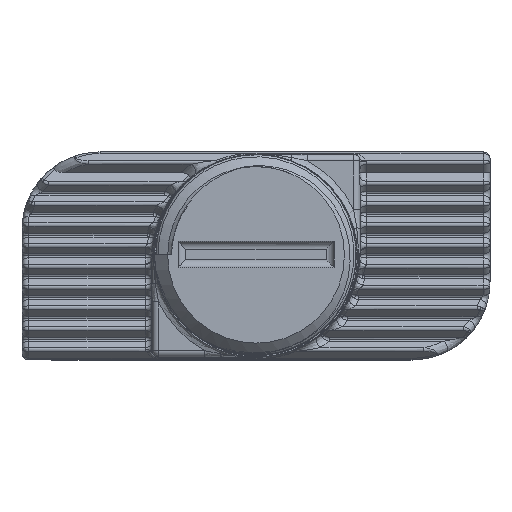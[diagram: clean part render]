
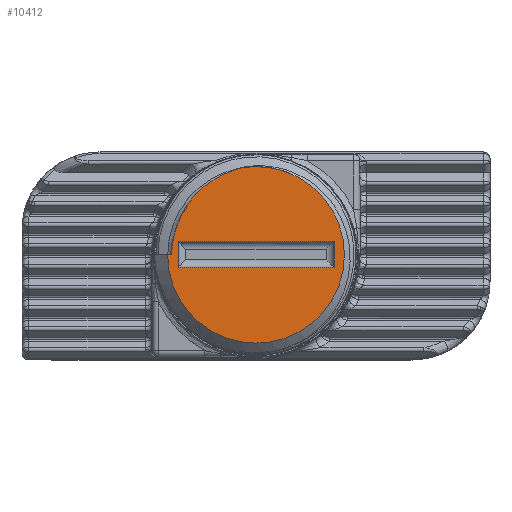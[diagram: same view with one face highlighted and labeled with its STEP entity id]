
A CAD part, top view. The second image highlights one B-rep face of the part: STEP entity #10412.
In plain terms, the highlighted planar face has unit normal (0, 0, 1).
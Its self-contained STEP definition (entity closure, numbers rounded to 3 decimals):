
#127 = CARTESIAN_POINT ( 'NONE',  ( -0.626, 3.984, 29.5 ) ) ;
#441 = PLANE ( 'NONE',  #8721 ) ;
#456 = CARTESIAN_POINT ( 'NONE',  ( -0.648, 3.978, 29.5 ) ) ;
#517 = CARTESIAN_POINT ( 'NONE',  ( -2.908, 2.111, 29.5 ) ) ;
#594 = CARTESIAN_POINT ( 'NONE',  ( -3., 0.164, 29.5 ) ) ;
#793 = CARTESIAN_POINT ( 'NONE',  ( 3., 1.164, 29.5 ) ) ;
#1586 = CARTESIAN_POINT ( 'NONE',  ( -3., 1.164, 29.5 ) ) ;
#1834 = FACE_BOUND ( 'NONE', #5903, .T. ) ;
#1906 = CARTESIAN_POINT ( 'NONE',  ( -3.11, 1.58, 29.5 ) ) ;
#2470 = EDGE_CURVE ( 'NONE', #11723, #4095, #16023, .T. ) ;
#2562 = CARTESIAN_POINT ( 'NONE',  ( -0.581, 3.997, 29.5 ) ) ;
#2754 = ORIENTED_EDGE ( 'NONE', *, *, #3517, .T. ) ;
#3030 = CARTESIAN_POINT ( 'NONE',  ( 3., 1.164, 29.5 ) ) ;
#3033 = VERTEX_POINT ( 'NONE', #16018 ) ;
#3153 = ORIENTED_EDGE ( 'NONE', *, *, #17614, .T. ) ;
#3173 = CARTESIAN_POINT ( 'NONE',  ( -3., 1.164, 29.5 ) ) ;
#3262 = CARTESIAN_POINT ( 'NONE',  ( -3.221, 1.028, 29.5 ) ) ;
#3424 = CARTESIAN_POINT ( 'NONE',  ( 3., 0.164, 29.5 ) ) ;
#3517 = EDGE_CURVE ( 'NONE', #9311, #5057, #8364, .T. ) ;
#3641 = CARTESIAN_POINT ( 'NONE',  ( 0., 0.647, 29.5 ) ) ;
#4095 = VERTEX_POINT ( 'NONE', #793 ) ;
#4284 = DIRECTION ( 'NONE',  ( 0., 0., 1. ) ) ;
#4551 = CARTESIAN_POINT ( 'NONE',  ( -0.648, 3.978, 29.5 ) ) ;
#4591 = CARTESIAN_POINT ( 'NONE',  ( 0., 0.647, 29.5 ) ) ;
#4606 = CARTESIAN_POINT ( 'NONE',  ( -1.362, 3.709, 29.5 ) ) ;
#4674 = CARTESIAN_POINT ( 'NONE',  ( -3.238, 0.647, 29.5 ) ) ;
#5057 = VERTEX_POINT ( 'NONE', #4551 ) ;
#5210 = AXIS2_PLACEMENT_3D ( 'NONE', #12694, #4284, #14102 ) ;
#5630 = EDGE_CURVE ( 'NONE', #15467, #9311, #10407, .T. ) ;
#5662 = CARTESIAN_POINT ( 'NONE',  ( -0.604, 3.991, 29.5 ) ) ;
#5805 = LINE ( 'NONE', #3173, #6258 ) ;
#5903 = EDGE_LOOP ( 'NONE', ( #9971, #6127, #10533, #13123 ) ) ;
#6029 = DIRECTION ( 'NONE',  ( 1., 0., 0. ) ) ;
#6047 = CARTESIAN_POINT ( 'NONE',  ( -1.98, 3.285, 29.5 ) ) ;
#6127 = ORIENTED_EDGE ( 'NONE', *, *, #10303, .F. ) ;
#6258 = VECTOR ( 'NONE', #17020, 1000. ) ;
#6326 = VECTOR ( 'NONE', #6328, 1000. ) ;
#6328 = DIRECTION ( 'NONE',  ( -1., 0., 0. ) ) ;
#6431 = VECTOR ( 'NONE', #11338, 1000. ) ;
#6569 = EDGE_CURVE ( 'NONE', #11619, #3033, #5805, .T. ) ;
#7368 = CARTESIAN_POINT ( 'NONE',  ( -3.238, 0.647, 29.5 ) ) ;
#7456 = CARTESIAN_POINT ( 'NONE',  ( -2.39, 2.891, 29.5 ) ) ;
#8364 = B_SPLINE_CURVE_WITH_KNOTS ( 'NONE', 3,
 ( #14039, #5662, #127, #9866 ),
 .UNSPECIFIED., .F., .F.,
 ( 4, 4 ),
 ( 0., 0.001 ),
 .UNSPECIFIED. ) ;
#8721 = AXIS2_PLACEMENT_3D ( 'NONE', #4591, #14401, #6029 ) ;
#8843 = CARTESIAN_POINT ( 'NONE',  ( -2.726, 2.441, 29.5 ) ) ;
#9015 = EDGE_CURVE ( 'NONE', #3033, #11723, #9055, .T. ) ;
#9055 = LINE ( 'NONE', #594, #16087 ) ;
#9240 = FACE_OUTER_BOUND ( 'NONE', #16478, .T. ) ;
#9311 = VERTEX_POINT ( 'NONE', #2562 ) ;
#9866 = CARTESIAN_POINT ( 'NONE',  ( -0.648, 3.978, 29.5 ) ) ;
#9971 = ORIENTED_EDGE ( 'NONE', *, *, #6569, .F. ) ;
#10182 = CARTESIAN_POINT ( 'NONE',  ( -1.012, 3.867, 29.5 ) ) ;
#10244 = CARTESIAN_POINT ( 'NONE',  ( -2.986, 1.936, 29.5 ) ) ;
#10260 = VECTOR ( 'NONE', #11420, 1000. ) ;
#10303 = EDGE_CURVE ( 'NONE', #4095, #11619, #13858, .T. ) ;
#10306 = ORIENTED_EDGE ( 'NONE', *, *, #11191, .T. ) ;
#10407 = CIRCLE ( 'NONE', #5210, 3.4 ) ;
#10412 = ADVANCED_FACE ( 'NONE', ( #1834, #9240 ), #441, .T. ) ;
#10533 = ORIENTED_EDGE ( 'NONE', *, *, #2470, .F. ) ;
#11025 = CARTESIAN_POINT ( 'NONE',  ( -3.4, 0.647, 29.5 ) ) ;
#11191 = EDGE_CURVE ( 'NONE', #16434, #15467, #13307, .T. ) ;
#11338 = DIRECTION ( 'NONE',  ( -1., 0., 0. ) ) ;
#11420 = DIRECTION ( 'NONE',  ( 0., 1., 0. ) ) ;
#11619 = VERTEX_POINT ( 'NONE', #14794 ) ;
#11657 = CARTESIAN_POINT ( 'NONE',  ( -3.157, 1.399, 29.5 ) ) ;
#11723 = VERTEX_POINT ( 'NONE', #3424 ) ;
#12694 = CARTESIAN_POINT ( 'NONE',  ( 0., 0.647, 29.5 ) ) ;
#13083 = CARTESIAN_POINT ( 'NONE',  ( -3.238, 0.837, 29.5 ) ) ;
#13123 = ORIENTED_EDGE ( 'NONE', *, *, #9015, .F. ) ;
#13307 = LINE ( 'NONE', #3641, #6326 ) ;
#13858 = LINE ( 'NONE', #1586, #6431 ) ;
#14039 = CARTESIAN_POINT ( 'NONE',  ( -0.581, 3.997, 29.5 ) ) ;
#14102 = DIRECTION ( 'NONE',  ( 1., 0., 0. ) ) ;
#14401 = DIRECTION ( 'NONE',  ( 0., 0., 1. ) ) ;
#14419 = CARTESIAN_POINT ( 'NONE',  ( -1.832, 3.4, 29.5 ) ) ;
#14794 = CARTESIAN_POINT ( 'NONE',  ( -3., 1.164, 29.5 ) ) ;
#15284 = B_SPLINE_CURVE_WITH_KNOTS ( 'NONE', 3,
 ( #456, #10182, #4606, #14419, #6047, #15841, #7456, #17238, #8843, #517, #10244, #1906, #11657, #3262, #13083, #4674 ),
 .UNSPECIFIED., .F., .F.,
 ( 4, 2, 2, 2, 2, 2, 2, 4 ),
 ( 0., 0.001, 0.002, 0.002, 0.003, 0.003, 0.004, 0.005 ),
 .UNSPECIFIED. ) ;
#15467 = VERTEX_POINT ( 'NONE', #11025 ) ;
#15841 = CARTESIAN_POINT ( 'NONE',  ( -2.259, 3.031, 29.5 ) ) ;
#16018 = CARTESIAN_POINT ( 'NONE',  ( -3., 0.164, 29.5 ) ) ;
#16023 = LINE ( 'NONE', #3030, #10260 ) ;
#16087 = VECTOR ( 'NONE', #17306, 1000. ) ;
#16434 = VERTEX_POINT ( 'NONE', #7368 ) ;
#16478 = EDGE_LOOP ( 'NONE', ( #3153, #10306, #16566, #2754 ) ) ;
#16566 = ORIENTED_EDGE ( 'NONE', *, *, #5630, .T. ) ;
#17020 = DIRECTION ( 'NONE',  ( 0., -1., 0. ) ) ;
#17238 = CARTESIAN_POINT ( 'NONE',  ( -2.623, 2.597, 29.5 ) ) ;
#17306 = DIRECTION ( 'NONE',  ( 1., 0., 0. ) ) ;
#17614 = EDGE_CURVE ( 'NONE', #5057, #16434, #15284, .T. ) ;
